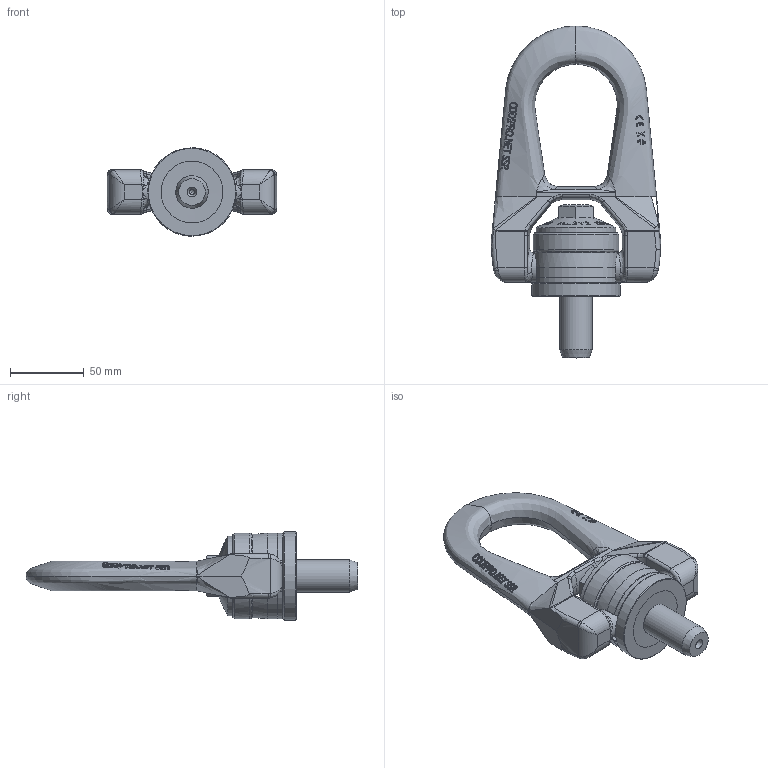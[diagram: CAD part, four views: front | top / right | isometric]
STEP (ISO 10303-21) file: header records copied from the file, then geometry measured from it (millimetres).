
FILE_DESCRIPTION(/* description */ (''),/* implementation_level */ '2;1');
FILE_NAME(/* name */ 'W:\CODIPRO\DOCUMENTS\Plans A NE PAS DIFFUSER !!!\Fichiers STEP\Gamme 2018\Produits NON GRADUP\SS DSR\SS DSR M22.stp',/* time_stamp */ '2017-09-26T13:09:59+02:00',/* author */ ('rklenes'),/* organization */ (''),/* preprocessor_version */ 'ST-DEVELOPER v16.5',/* originating_system */ 'Autodesk Inventor 2017',/* authorisation */ '');
FILE_SCHEMA (('AUTOMOTIVE_DESIGN { 1 0 10303 214 3 1 1 }'));
Products named in the file (5): SS DSR M22; DRM_AF3B; SSB_B3B; DRE_D3M22A; DRA_M22X76
Assembly tree (4 placements, depth 2):
  SS DSR M22
    DRM_AF3B
    SSB_B3B
    DRE_D3M22A
    DRA_M22X76
Bounding box: 115 x 225.25 x 59.92 mm (x, y, z)
Volume: 327961.8 mm3; surface area: 73399.8 mm2
Topology: 4 solids, 4 shells, 789 faces, 2094 edges, 1348 vertices
Faces by surface type: plane 363, bspline 295, cylinder 70, cone 45, torus 15, sphere 1
Full cylindrical faces by diameter (mm): 3.15 x1, 20 x2, 22 x3, 22.2 x1, 33.6 x2, 34 x2, 46 x1, 54 x1, 58 x1, 60 x1
Entity records: 45199 total; most frequent: CARTESIAN_POINT 27862, ORIENTED_EDGE 4076, DIRECTION 2748, EDGE_CURVE 2038, VERTEX_POINT 1338, AXIS2_PLACEMENT_3D 1012, EDGE_LOOP 874, FACE_OUTER_BOUND 788
